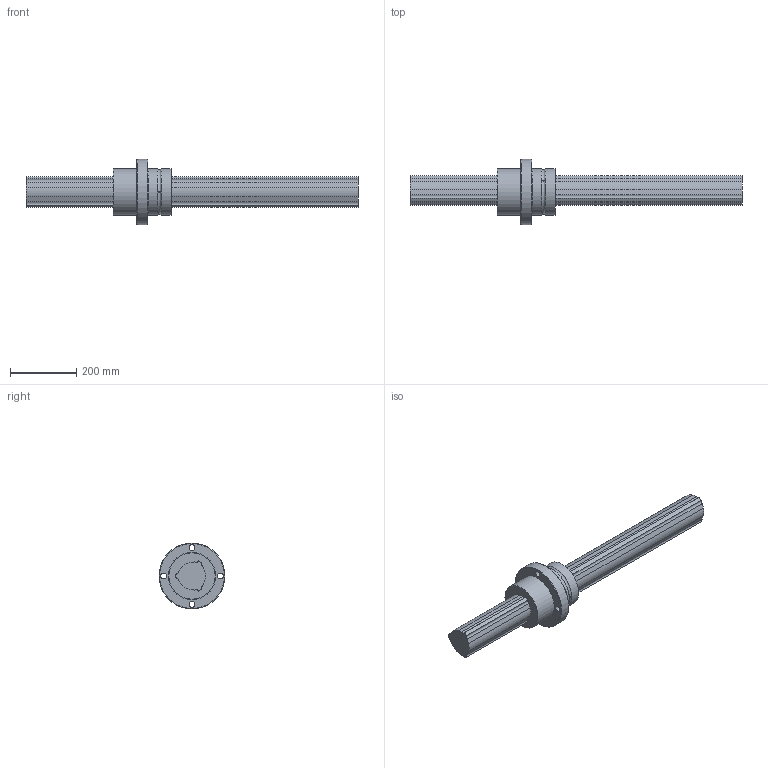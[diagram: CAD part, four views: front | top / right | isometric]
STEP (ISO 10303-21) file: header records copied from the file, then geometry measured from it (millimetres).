
FILE_DESCRIPTION(/* description */ ('STEP AP214'),/* implementation_level */ '2;1');
FILE_NAME(/* name */ 'LBR100+1000L(175262.50)',/* time_stamp */ '2024-09-04T13:10:53+02:00',/* author */ ('License CC BY-ND 4.0'),/* organization */ ('CADENAS'),/* preprocessor_version */ 'ST-DEVELOPER v19.3',/* originating_system */ 'PARTsolutions',/* authorisation */ ' ');
FILE_SCHEMA (('AUTOMOTIVE_DESIGN {1 0 10303 214 3 1 1}'));
Length unit declared in the file: millimetre
Products named in the file (3): LBR100+1000L(175262.50); LBR10011000 Spline Shaft; LBR100 Nut
Assembly tree (2 placements, depth 2):
  LBR100+1000L(175262.50)
    LBR10011000 Spline Shaft
    LBR100 Nut
Bounding box: 1000 x 198.6 x 198.6 mm (x, y, z)
Volume: 7882608.9 mm3; surface area: 494509.6 mm2
Topology: 2 solids, 2 shells, 63 faces, 158 edges, 104 vertices
Faces by surface type: cylinder 35, plane 21, torus 5, cone 2
Full cylindrical faces by diameter (mm): 5 x3, 18 x4, 140 x2, 140.6 x1, 198.6 x1
Entity records: 1918 total; most frequent: CARTESIAN_POINT 344, DIRECTION 338, ORIENTED_EDGE 272, AXIS2_PLACEMENT_3D 139, EDGE_CURVE 136, VERTEX_POINT 100, EDGE_LOOP 96, FACE_BOUND 96
